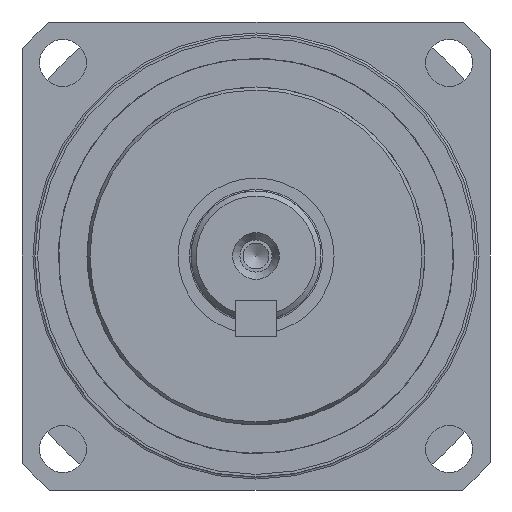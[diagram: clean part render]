
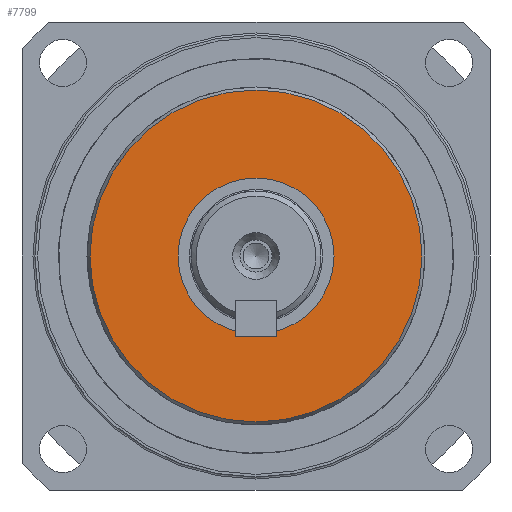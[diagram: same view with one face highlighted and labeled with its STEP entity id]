
A CAD part, left-side view. The second image highlights one B-rep face of the part: STEP entity #7799.
In plain terms, the highlighted planar face has unit normal (-1, 0, 0).
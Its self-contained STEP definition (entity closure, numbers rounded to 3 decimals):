
#708=FACE_BOUND('',#2152,.T.);
#1506=PLANE('',#8796);
#1693=FACE_OUTER_BOUND('',#2151,.T.);
#2151=EDGE_LOOP('',(#5740));
#2152=EDGE_LOOP('',(#5741,#5742));
#2739=CIRCLE('',#8792,31.923);
#2742=CIRCLE('',#8797,15.);
#2743=CIRCLE('',#8798,15.);
#3504=VERTEX_POINT('',#13040);
#3507=VERTEX_POINT('',#13050);
#3508=VERTEX_POINT('',#13051);
#4431=EDGE_CURVE('',#3504,#3504,#2739,.T.);
#4435=EDGE_CURVE('',#3507,#3508,#2742,.T.);
#4436=EDGE_CURVE('',#3508,#3507,#2743,.T.);
#5740=ORIENTED_EDGE('',*,*,#4431,.F.);
#5741=ORIENTED_EDGE('',*,*,#4435,.T.);
#5742=ORIENTED_EDGE('',*,*,#4436,.T.);
#7799=ADVANCED_FACE('',(#1693,#708),#1506,.T.);
#8792=AXIS2_PLACEMENT_3D('',#13042,#10245,#10246);
#8796=AXIS2_PLACEMENT_3D('',#13049,#10254,#10255);
#8797=AXIS2_PLACEMENT_3D('',#13052,#10256,#10257);
#8798=AXIS2_PLACEMENT_3D('',#13053,#10258,#10259);
#10245=DIRECTION('center_axis',(1.,0.,0.));
#10246=DIRECTION('ref_axis',(0.,-1.,0.));
#10254=DIRECTION('center_axis',(-1.,0.,0.));
#10255=DIRECTION('ref_axis',(0.,0.,1.));
#10256=DIRECTION('center_axis',(1.,0.,0.));
#10257=DIRECTION('ref_axis',(0.,0.,-1.));
#10258=DIRECTION('center_axis',(1.,0.,0.));
#10259=DIRECTION('ref_axis',(0.,0.,-1.));
#13040=CARTESIAN_POINT('',(0.,31.923,0.));
#13042=CARTESIAN_POINT('Origin',(0.,0.,0.));
#13049=CARTESIAN_POINT('Origin',(0.,32.5,0.));
#13050=CARTESIAN_POINT('',(0.,15.,0.));
#13051=CARTESIAN_POINT('',(0.,-15.,0.));
#13052=CARTESIAN_POINT('Origin',(0.,0.,0.));
#13053=CARTESIAN_POINT('Origin',(0.,0.,0.));
